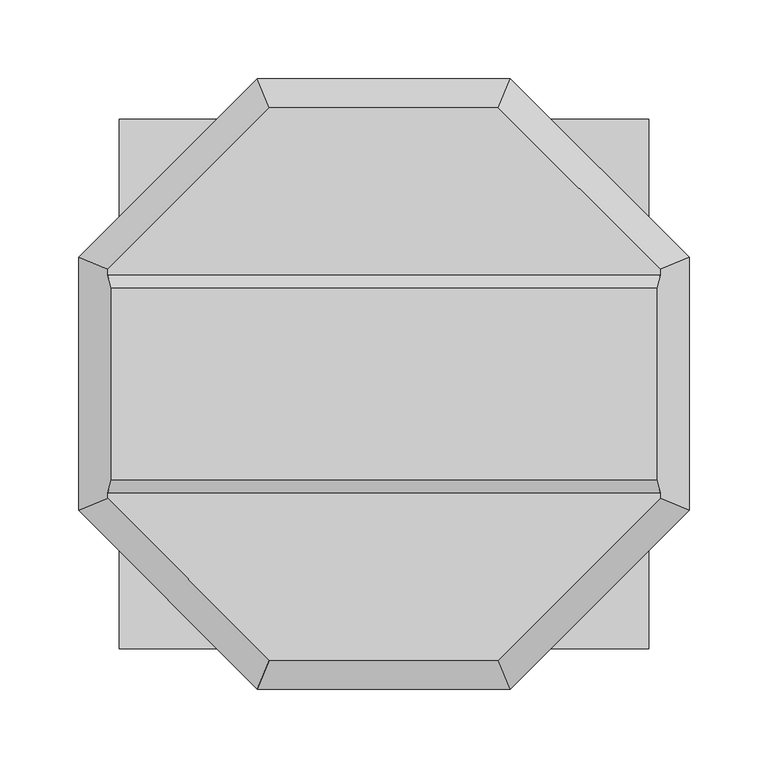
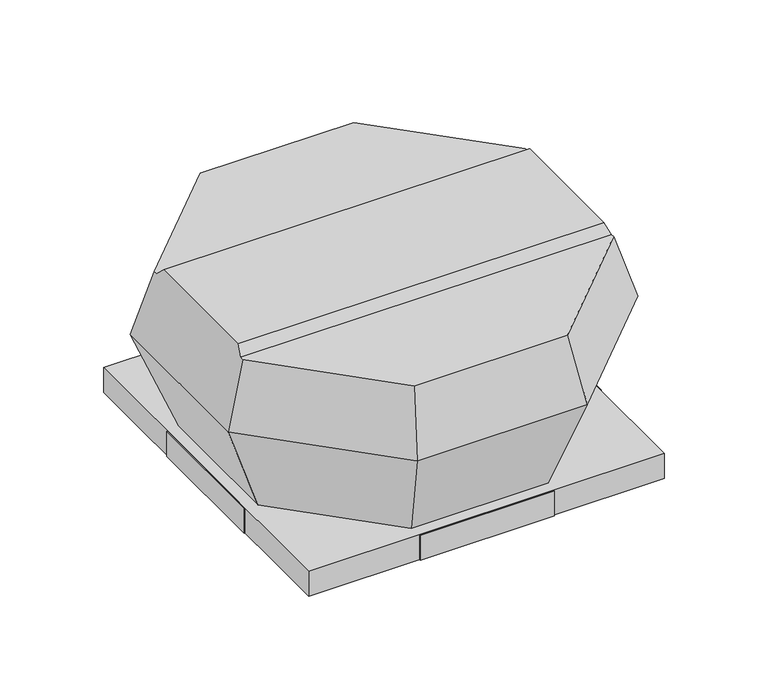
"""IFC4 building model written with IfcOpenShell, lengths in millimetres: unitary equipment geometry, VE-Wentylator-ParaForma-Harmann-VIVER-Wywiewny : 2-220/800S."""

from ifc_helpers import new_model, si_unit, origin, place, context, project, spatial, faceted_brep, source, transform, mapped, element, save


def unitary_equipment_41c086c7(model_context):
    return source(origin(), model_context, "Body", "Brep", [
        faceted_brep([(173.439029, -61.0, 166.2), (173.439029, 61.0, 166.2), (-173.439029, 61.0, 166.2), (-173.439029, -61.0, 166.2), (175.875458, 69.15, 158.1), (-175.875458, 69.15, 158.1), (175.875458, -69.15, 158.1), (-175.875458, -69.15, 158.1), (72.85, -175.875458, 158.1), (175.875458, -72.85, 158.1), (-175.875458, -72.85, 158.1), (-72.85, -175.875458, 158.1), (175.875458, 72.85, 158.1), (72.85, 175.875458, 158.1), (-72.85, 175.875458, 158.1), (-175.875458, 72.85, 158.1), (80.5, -194.3441918, 96.7), (194.3441918, -80.5, 96.7), (194.3441918, 80.5, 96.7), (80.5, 194.3441918, 96.7), (-80.5, 194.3441918, 96.7), (-194.3441918, 80.5, 96.7), (-194.3441918, -80.5, 96.7), (-80.5, -194.3441918, 96.7), (65.1, -157.1653029, 1.0), (-65.1, -157.1653029, 1.0), (-157.1653029, -65.1, 1.0), (-157.1653029, 65.1, 1.0), (-65.1, 157.1653029, 1.0), (65.1, 157.1653029, 1.0), (157.1653029, 65.1, 1.0), (157.1653029, -65.1, 1.0)], [[[0, 1, 2, 3]], [[1, 4, 5, 2]], [[6, 0, 3, 7]], [[8, 9, 6, 7, 10, 11]], [[12, 13, 14, 15, 5, 4]], [[9, 8, 16, 17]], [[9, 17, 18, 12, 4, 1, 0, 6]], [[13, 12, 18, 19]], [[14, 13, 19, 20]], [[15, 14, 20, 21]], [[15, 21, 22, 10, 7, 3, 2, 5]], [[11, 10, 22, 23]], [[8, 11, 23, 16]], [[24, 25, 26, 27, 28, 29, 30, 31]], [[24, 31, 17, 16]], [[31, 30, 18, 17]], [[30, 29, 19, 18]], [[29, 28, 20, 19]], [[28, 27, 21, 20]], [[27, 26, 22, 21]], [[26, 25, 23, 22]], [[25, 24, 16, 23]]]),
        faceted_brep([(167.55, 167.55, -24.0), (167.55, 167.55, 0.0), (-167.55, 167.55, 0.0), (-167.55, 167.55, -24.0), (168.55, 168.55, 1.0), (168.55, 168.55, -24.0), (-168.55, 168.55, -24.0), (-168.55, 168.55, 1.0), (-167.55, -167.55, 0.0), (-167.55, -167.55, -24.0), (-168.55, -168.55, -24.0), (-168.55, -168.55, 1.0), (167.55, -167.55, 0.0), (167.55, -167.55, -24.0), (168.55, -168.55, -24.0), (168.55, -168.55, 1.0)], [[[0, 1, 2, 3]], [[4, 5, 6, 7]], [[3, 2, 8, 9]], [[7, 6, 10, 11]], [[9, 8, 12, 13]], [[11, 10, 14, 15]], [[13, 12, 1, 0]], [[5, 14, 10, 6], [3, 9, 13, 0]], [[15, 14, 5, 4]], [[7, 11, 15, 4]], [[1, 12, 8, 2]]]),
        faceted_brep([(-168.5, -63.7, -24.0), (-169.5, -63.7, -24.0), (-169.5, 63.7, -24.0), (-168.5, 63.7, -24.0), (-168.5, -63.7, 1.0), (-168.5, 63.7, 1.0), (-169.5, 63.7, 1.0), (-169.5, -63.7, 1.0)], [[[0, 1, 2, 3]], [[4, 5, 6, 7]], [[1, 0, 4, 7]], [[2, 1, 7, 6]], [[3, 2, 6, 5]], [[0, 3, 5, 4]]]),
        faceted_brep([(169.5, -63.7, -24.0), (168.5, -63.7, -24.0), (168.5, 63.7, -24.0), (169.5, 63.7, -24.0), (169.5, 63.7, 1.0), (168.5, 63.7, 1.0), (168.5, 5.0, 1.0), (168.5, -5.0, 1.0), (168.5, -63.7, 1.0), (169.5, -63.7, 1.0), (169.5, -5.0, 1.0), (169.5, 5.0, 1.0)], [[[0, 1, 2, 3]], [[4, 5, 6, 7, 8, 9, 10, 11]], [[1, 0, 9, 8]], [[2, 1, 8, 7, 6, 5]], [[3, 2, 5, 4]], [[0, 3, 4, 11, 10, 9]]]),
        faceted_brep([(63.7, 168.5, -24.0), (-63.7, 168.5, -24.0), (-63.7, 169.5, -24.0), (63.7, 169.5, -24.0), (63.7, 168.5, 1.0), (63.7, 169.5, 1.0), (-63.7, 169.5, 1.0), (-63.7, 168.5, 1.0)], [[[0, 1, 2, 3]], [[4, 5, 6, 7]], [[1, 0, 4, 7]], [[2, 1, 7, 6]], [[3, 2, 6, 5]], [[0, 3, 5, 4]]]),
        faceted_brep([(63.7, -169.5, -24.0), (-63.7, -169.5, -24.0), (-63.7, -168.5, -24.0), (63.7, -168.5, -24.0), (63.7, -169.5, 1.0), (63.7, -168.5, 1.0), (-63.7, -168.5, 1.0), (-63.7, -169.5, 1.0)], [[[0, 1, 2, 3]], [[4, 5, 6, 7]], [[1, 0, 4, 7]], [[2, 1, 7, 6]], [[3, 2, 6, 5]], [[0, 3, 5, 4]]]),
    ])


if __name__ == "__main__":
    model = new_model("IFC4")
    model_context = context("Model", 3, world=origin())
    ifc_project = project(units=[si_unit("LENGTHUNIT", "METRE", prefix="MILLI")], contexts=[model_context])
    site = spatial("IfcSite", under=ifc_project)
    building = spatial("IfcBuilding", under=site)
    placement = place(None, origin())
    unitary_equipment_shape = unitary_equipment_41c086c7(model_context)
    element("IfcUnitaryEquipment", 1, ObjectType="VE-Wentylator-ParaForma-Harmann-VIVER-Wywiewny : 2-220/800S", at=placement, inside=building, context=model_context, shape_type="MappedRepresentation", body=[
        mapped(unitary_equipment_shape, transform((0.0, 0.0, 0.0), x_axis=(1.0, 0.0, 0.0), y_axis=(0.0, 1.0, 0.0), z_axis=(0.0, 0.0, 1.0))),
    ])
    save(model, "model.ifc")
